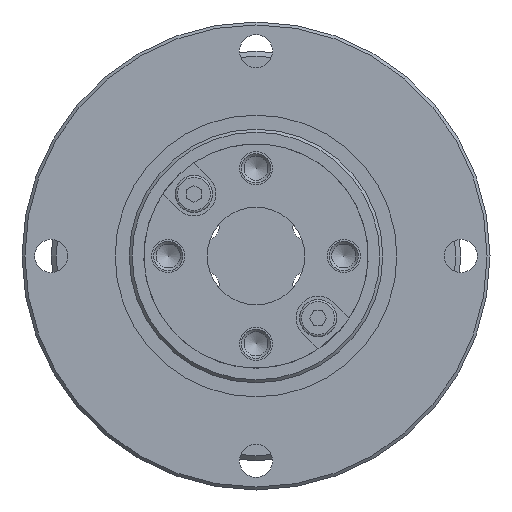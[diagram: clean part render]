
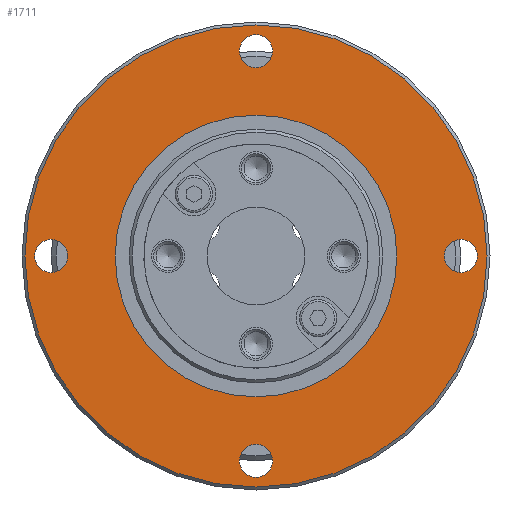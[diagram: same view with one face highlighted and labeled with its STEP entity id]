
A CAD part, left-side view. The second image highlights one B-rep face of the part: STEP entity #1711.
In plain terms, the highlighted planar face has unit normal (-1, 0, 0).
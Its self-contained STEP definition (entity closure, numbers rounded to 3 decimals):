
#84=PLANE('',#1937);
#176=CIRCLE('',#1938,23.7);
#177=CIRCLE('',#1939,1.7);
#178=CIRCLE('',#1940,1.7);
#179=CIRCLE('',#1941,1.7);
#180=CIRCLE('',#1942,1.7);
#181=CIRCLE('',#1943,14.45);
#374=ORIENTED_EDGE('',*,*,#697,.F.);
#375=ORIENTED_EDGE('',*,*,#698,.T.);
#376=ORIENTED_EDGE('',*,*,#699,.T.);
#377=ORIENTED_EDGE('',*,*,#700,.T.);
#378=ORIENTED_EDGE('',*,*,#701,.T.);
#379=ORIENTED_EDGE('',*,*,#702,.T.);
#697=EDGE_CURVE('',#880,#880,#176,.T.);
#698=EDGE_CURVE('',#881,#881,#177,.T.);
#699=EDGE_CURVE('',#882,#882,#178,.T.);
#700=EDGE_CURVE('',#883,#883,#179,.T.);
#701=EDGE_CURVE('',#884,#884,#180,.T.);
#702=EDGE_CURVE('',#885,#885,#181,.T.);
#880=VERTEX_POINT('',#2890);
#881=VERTEX_POINT('',#2892);
#882=VERTEX_POINT('',#2894);
#883=VERTEX_POINT('',#2896);
#884=VERTEX_POINT('',#2898);
#885=VERTEX_POINT('',#2900);
#1196=EDGE_LOOP('',(#374));
#1197=EDGE_LOOP('',(#375));
#1198=EDGE_LOOP('',(#376));
#1199=EDGE_LOOP('',(#377));
#1200=EDGE_LOOP('',(#378));
#1201=EDGE_LOOP('',(#379));
#1446=FACE_BOUND('',#1196,.T.);
#1447=FACE_BOUND('',#1197,.T.);
#1448=FACE_BOUND('',#1198,.T.);
#1449=FACE_BOUND('',#1199,.T.);
#1450=FACE_BOUND('',#1200,.T.);
#1451=FACE_BOUND('',#1201,.T.);
#1711=ADVANCED_FACE('',(#1446,#1447,#1448,#1449,#1450,#1451),#84,.F.);
#1937=AXIS2_PLACEMENT_3D('',#2888,#2311,#2312);
#1938=AXIS2_PLACEMENT_3D('',#2889,#2313,#2314);
#1939=AXIS2_PLACEMENT_3D('',#2891,#2315,#2316);
#1940=AXIS2_PLACEMENT_3D('',#2893,#2317,#2318);
#1941=AXIS2_PLACEMENT_3D('',#2895,#2319,#2320);
#1942=AXIS2_PLACEMENT_3D('',#2897,#2321,#2322);
#1943=AXIS2_PLACEMENT_3D('',#2899,#2323,#2324);
#2311=DIRECTION('',(1.,0.,0.));
#2312=DIRECTION('',(0.,0.,-1.));
#2313=DIRECTION('',(1.,0.,0.));
#2314=DIRECTION('',(0.,0.,-1.));
#2315=DIRECTION('',(1.,0.,0.));
#2316=DIRECTION('',(0.,0.,-1.));
#2317=DIRECTION('',(1.,0.,0.));
#2318=DIRECTION('',(0.,0.,-1.));
#2319=DIRECTION('',(1.,0.,0.));
#2320=DIRECTION('',(0.,0.,-1.));
#2321=DIRECTION('',(1.,0.,0.));
#2322=DIRECTION('',(0.,0.,-1.));
#2323=DIRECTION('',(1.,0.,0.));
#2324=DIRECTION('',(0.,0.,-1.));
#2888=CARTESIAN_POINT('',(8.,12.6,0.));
#2889=CARTESIAN_POINT('',(8.,0.,0.));
#2890=CARTESIAN_POINT('',(8.,0.,-23.7));
#2891=CARTESIAN_POINT('',(8.,21.,0.));
#2892=CARTESIAN_POINT('',(8.,21.,-1.7));
#2893=CARTESIAN_POINT('',(8.,0.,21.));
#2894=CARTESIAN_POINT('',(8.,0.,19.3));
#2895=CARTESIAN_POINT('',(8.,-21.,0.));
#2896=CARTESIAN_POINT('',(8.,-21.,-1.7));
#2897=CARTESIAN_POINT('',(8.,0.,-21.));
#2898=CARTESIAN_POINT('',(8.,0.,-22.7));
#2899=CARTESIAN_POINT('',(8.,0.,0.));
#2900=CARTESIAN_POINT('',(8.,0.,-14.45));
